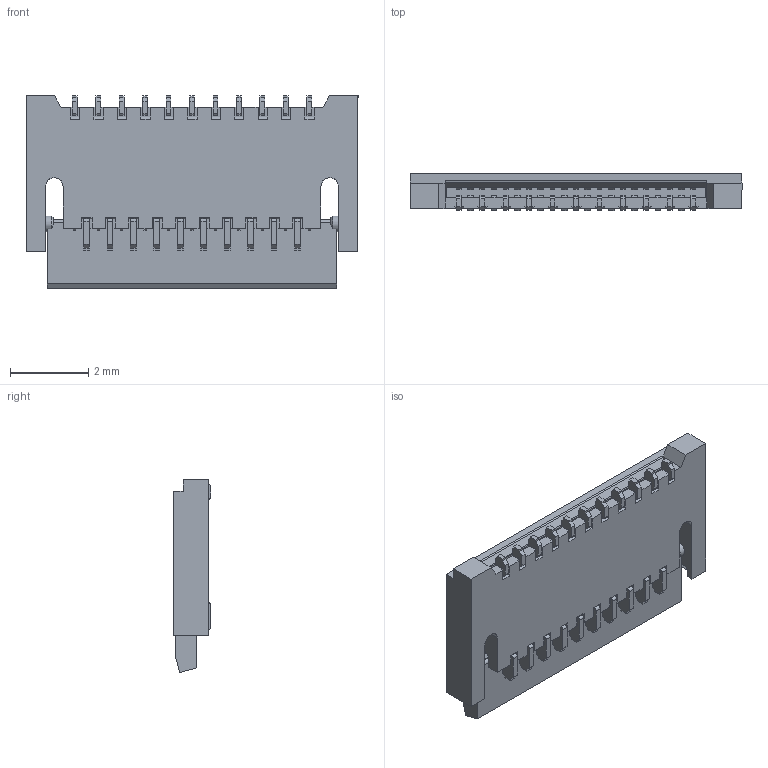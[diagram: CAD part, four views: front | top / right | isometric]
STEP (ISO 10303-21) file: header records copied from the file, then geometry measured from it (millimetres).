
FILE_DESCRIPTION (( 'STEP AP203' ), '1' );
FILE_NAME ('FF12-21A-R11B(Close).STEP', '2007-01-16T06:26:07', ( '' ), ( '' ), 'SwSTEP 2.0', 'SolidWorks 2006303', '' );
FILE_SCHEMA (( 'CONFIG_CONTROL_DESIGN' ));
Length unit declared in the file: millimetre
Products named in the file (1): FF12-21A-R11B(Close)
Bounding box: 8.5 x 0.95 x 4.93 mm (x, y, z)
Volume: 24.6 mm3; surface area: 153.5 mm2
Topology: 1 solids, 1 shells, 824 faces, 2662 edges, 1765 vertices
Faces by surface type: plane 685, cylinder 136, cone 3
Entity records: 29172 total; most frequent: ORIENTED_EDGE 5324, CARTESIAN_POINT 5288, DIRECTION 4587, EDGE_CURVE 2662, LINE 2375, VECTOR 2375, VERTEX_POINT 1765, AXIS2_PLACEMENT_3D 1106
